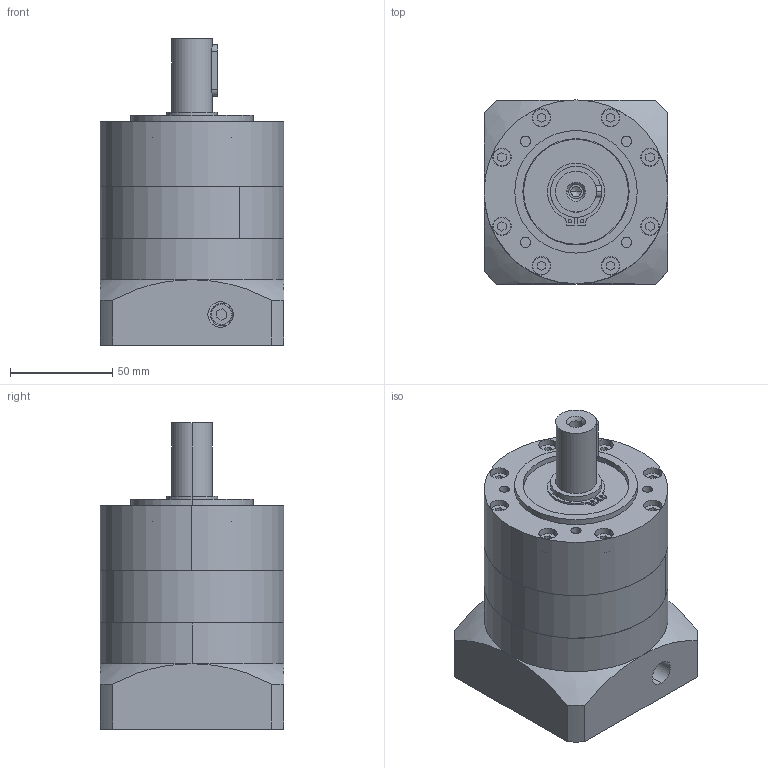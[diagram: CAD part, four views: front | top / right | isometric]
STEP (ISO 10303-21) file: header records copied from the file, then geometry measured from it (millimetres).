
FILE_DESCRIPTION (( 'STEP AP214' ), '1' );
FILE_NAME ('PLE-090-L1-S2-P2 19-70-90-M5.STEP', '2021-04-24T02:53:59', ( 'Microsoft' ), ( 'Microsoft China' ), 'SwSTEP 2.0', 'SolidWorks 2016', '' );
FILE_SCHEMA (( 'AUTOMOTIVE_DESIGN' ));
Length unit declared in the file: millimetre
Products named in the file (8): PLE90 奻屳唳; PLE90 蟀諉啣-梓袧_D8-70 D9-90 D10-M5 A2-90 L4-32 L6-47(32+15) L7-6 R-59.5梓袧; 粣創-6007 35x62x14; 邧埴瑩 6x6x25; 囀鞠褒蹟佪 M6x20; PLE90 狟屳唳_D6-90 D7-19 梓袧; PLE90 κｳﾝﾈｦ-ﾓﾅｻｯ_ﾒｻｼｶﾄﾚｳﾝﾈｦ; PLE-090-L1-S2-P2 19-70-90-M5
Assembly tree (7 placements, depth 2):
  PLE-090-L1-S2-P2 19-70-90-M5
    PLE90 κｳﾝﾈｦ-ﾓﾅｻｯ_ﾒｻｼｶﾄﾚｳﾝﾈｦ
    PLE90 狟屳唳_D6-90 D7-19 梓袧
    囀鞠褒蹟佪 M6x20
    邧埴瑩 6x6x25
    粣創-6007 35x62x14
    PLE90 蟀諉啣-梓袧_D8-70 D9-90 D10-M5 A2-90 L4-32 L6-47(32+15) L7-6 R-59.5梓袧
    PLE90 奻屳唳
Bounding box: 90 x 90 x 150 mm (x, y, z)
Volume: 660235.2 mm3; surface area: 138259.9 mm2
Topology: 7 solids, 7 shells, 518 faces, 1372 edges, 900 vertices
Faces by surface type: plane 185, cylinder 177, sphere 88, torus 54, cone 14
Entity records: 25361 total; most frequent: CARTESIAN_POINT 6436, ORIENTED_EDGE 2724, DIRECTION 2705, EDGE_CURVE 1362, AXIS2_PLACEMENT_3D 1137, VERTEX_POINT 900, EDGE_LOOP 624, CIRCLE 609
